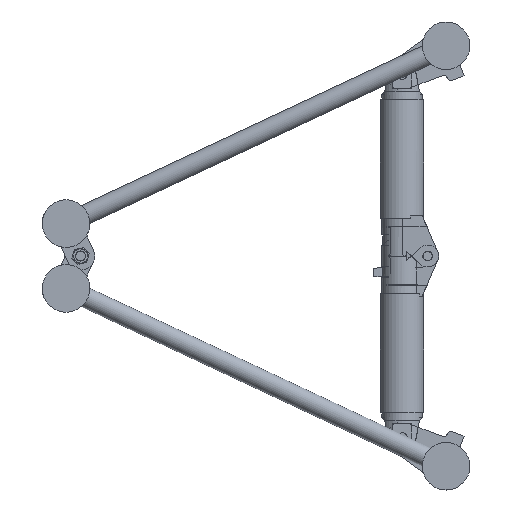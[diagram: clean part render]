
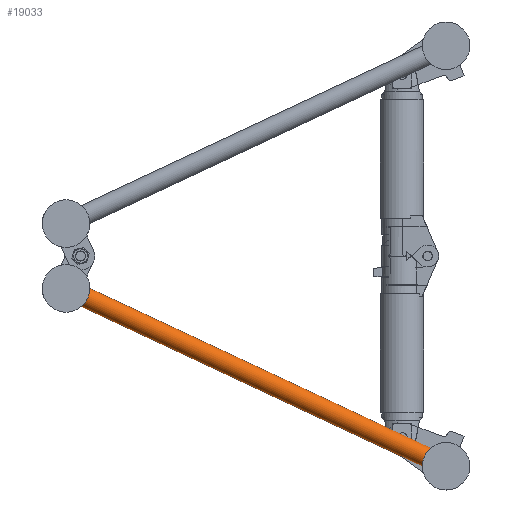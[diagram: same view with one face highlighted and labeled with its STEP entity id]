
A CAD part, left-side view. The second image highlights one B-rep face of the part: STEP entity #19033.
In plain terms, the highlighted cylindrical face has radius 12.5 mm (diameter 25 mm), a full revolution.
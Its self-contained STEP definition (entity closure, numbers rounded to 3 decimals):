
#287=B_SPLINE_CURVE_WITH_KNOTS('',3,(#30184,#30185,#30186,#30187,#30188,
#30189),.UNSPECIFIED.,.F.,.F.,(4,2,4),(1.801,1.922,
2.043),.UNSPECIFIED.);
#288=B_SPLINE_CURVE_WITH_KNOTS('',3,(#30193,#30194,#30195,#30196,#30197,
#30198),.UNSPECIFIED.,.F.,.F.,(4,2,4),(5.645,5.766,
5.887),.UNSPECIFIED.);
#293=B_SPLINE_CURVE_WITH_KNOTS('',3,(#30253,#30254,#30255,#30256,#30257,
#30258),.UNSPECIFIED.,.F.,.F.,(4,2,4),(5.645,5.766,
5.887),.UNSPECIFIED.);
#294=B_SPLINE_CURVE_WITH_KNOTS('',3,(#30262,#30263,#30264,#30265,#30266,
#30267),.UNSPECIFIED.,.F.,.F.,(4,2,4),(1.801,1.922,
2.043),.UNSPECIFIED.);
#4338=FACE_BOUND('',#6436,.T.);
#5125=FACE_OUTER_BOUND('',#6435,.T.);
#6435=EDGE_LOOP('',(#14660,#14661,#14662,#14663));
#6436=EDGE_LOOP('',(#14664,#14665,#14666,#14667));
#7614=CIRCLE('',#20563,12.5);
#7615=CIRCLE('',#20565,12.5);
#7616=CIRCLE('',#20566,12.5);
#7617=CIRCLE('',#20567,12.5);
#8800=VERTEX_POINT('',#30182);
#8801=VERTEX_POINT('',#30183);
#8802=VERTEX_POINT('',#30190);
#8803=VERTEX_POINT('',#30192);
#8816=VERTEX_POINT('',#30251);
#8817=VERTEX_POINT('',#30252);
#8818=VERTEX_POINT('',#30259);
#8819=VERTEX_POINT('',#30261);
#10963=EDGE_CURVE('',#8800,#8801,#287,.T.);
#10965=EDGE_CURVE('',#8803,#8802,#288,.T.);
#10979=EDGE_CURVE('',#8802,#8800,#7614,.T.);
#10980=EDGE_CURVE('',#8816,#8817,#293,.T.);
#10981=EDGE_CURVE('',#8817,#8818,#7615,.T.);
#10982=EDGE_CURVE('',#8818,#8819,#294,.T.);
#10983=EDGE_CURVE('',#8819,#8816,#7616,.T.);
#10984=EDGE_CURVE('',#8801,#8803,#7617,.T.);
#14660=ORIENTED_EDGE('',*,*,#10980,.T.);
#14661=ORIENTED_EDGE('',*,*,#10981,.T.);
#14662=ORIENTED_EDGE('',*,*,#10982,.T.);
#14663=ORIENTED_EDGE('',*,*,#10983,.T.);
#14664=ORIENTED_EDGE('',*,*,#10965,.T.);
#14665=ORIENTED_EDGE('',*,*,#10979,.T.);
#14666=ORIENTED_EDGE('',*,*,#10963,.T.);
#14667=ORIENTED_EDGE('',*,*,#10984,.T.);
#17566=CYLINDRICAL_SURFACE('',#20564,12.5);
#19033=ADVANCED_FACE('',(#5125,#4338),#17566,.T.);
#20563=AXIS2_PLACEMENT_3D('',#30249,#24087,#24088);
#20564=AXIS2_PLACEMENT_3D('',#30250,#24089,#24090);
#20565=AXIS2_PLACEMENT_3D('',#30260,#24091,#24092);
#20566=AXIS2_PLACEMENT_3D('',#30268,#24093,#24094);
#20567=AXIS2_PLACEMENT_3D('',#30269,#24095,#24096);
#24087=DIRECTION('center_axis',(0.,0.906,
0.424));
#24088=DIRECTION('ref_axis',(-1.,0.,0.));
#24089=DIRECTION('center_axis',(0.,0.906,
0.424));
#24090=DIRECTION('ref_axis',(-1.,0.,0.));
#24091=DIRECTION('center_axis',(0.,-0.906,
-0.424));
#24092=DIRECTION('ref_axis',(-1.,0.,0.));
#24093=DIRECTION('center_axis',(0.,-0.906,
-0.424));
#24094=DIRECTION('ref_axis',(-1.,0.,0.));
#24095=DIRECTION('center_axis',(0.,0.906,
0.424));
#24096=DIRECTION('ref_axis',(-1.,0.,0.));
#30182=CARTESIAN_POINT('',(104.94,22.096,-248.305));
#30183=CARTESIAN_POINT('',(104.94,23.134,-250.523));
#30184=CARTESIAN_POINT('Ctrl Pts',(104.94,22.096,-248.305));
#30185=CARTESIAN_POINT('Ctrl Pts',(104.98,22.289,-248.669));
#30186=CARTESIAN_POINT('Ctrl Pts',(105.,22.471,-249.036));
#30187=CARTESIAN_POINT('Ctrl Pts',(105.,22.813,-249.767));
#30188=CARTESIAN_POINT('Ctrl Pts',(104.98,22.978,-250.142));
#30189=CARTESIAN_POINT('Ctrl Pts',(104.94,23.134,-250.523));
#30190=CARTESIAN_POINT('',(80.06,22.096,-248.305));
#30192=CARTESIAN_POINT('',(80.06,23.134,-250.523));
#30193=CARTESIAN_POINT('Ctrl Pts',(80.06,23.134,-250.523));
#30194=CARTESIAN_POINT('Ctrl Pts',(80.02,22.978,-250.142));
#30195=CARTESIAN_POINT('Ctrl Pts',(80.,22.813,-249.767));
#30196=CARTESIAN_POINT('Ctrl Pts',(80.,22.471,-249.036));
#30197=CARTESIAN_POINT('Ctrl Pts',(80.02,22.289,-248.669));
#30198=CARTESIAN_POINT('Ctrl Pts',(80.06,22.096,-248.305));
#30249=CARTESIAN_POINT('Origin',(92.5,22.615,-249.414));
#30250=CARTESIAN_POINT('Origin',(92.5,234.999,-150.));
#30251=CARTESIAN_POINT('',(80.06,446.865,-49.477));
#30252=CARTESIAN_POINT('',(80.06,447.903,-51.695));
#30253=CARTESIAN_POINT('Ctrl Pts',(80.06,446.865,-49.477));
#30254=CARTESIAN_POINT('Ctrl Pts',(80.02,447.021,-49.858));
#30255=CARTESIAN_POINT('Ctrl Pts',(80.,447.185,-50.233));
#30256=CARTESIAN_POINT('Ctrl Pts',(80.,447.528,-50.964));
#30257=CARTESIAN_POINT('Ctrl Pts',(80.02,447.71,-51.331));
#30258=CARTESIAN_POINT('Ctrl Pts',(80.06,447.903,-51.695));
#30259=CARTESIAN_POINT('',(104.94,447.903,-51.695));
#30260=CARTESIAN_POINT('Origin',(92.5,447.384,-50.586));
#30261=CARTESIAN_POINT('',(104.94,446.865,-49.477));
#30262=CARTESIAN_POINT('Ctrl Pts',(104.94,447.903,-51.695));
#30263=CARTESIAN_POINT('Ctrl Pts',(104.98,447.71,-51.331));
#30264=CARTESIAN_POINT('Ctrl Pts',(105.,447.528,-50.964));
#30265=CARTESIAN_POINT('Ctrl Pts',(105.,447.185,-50.233));
#30266=CARTESIAN_POINT('Ctrl Pts',(104.98,447.021,-49.858));
#30267=CARTESIAN_POINT('Ctrl Pts',(104.94,446.865,-49.477));
#30268=CARTESIAN_POINT('Origin',(92.5,447.384,-50.586));
#30269=CARTESIAN_POINT('Origin',(92.5,22.615,-249.414));
